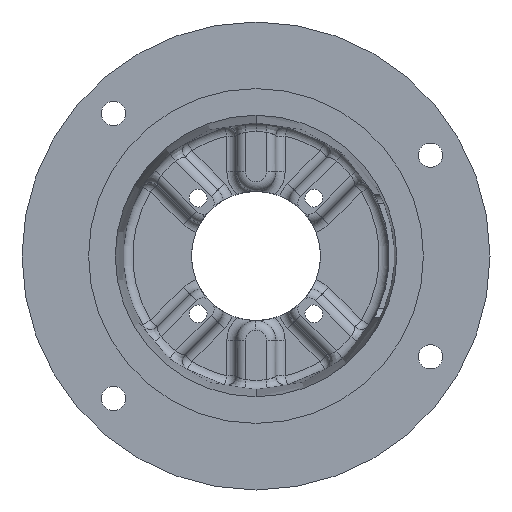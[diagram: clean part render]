
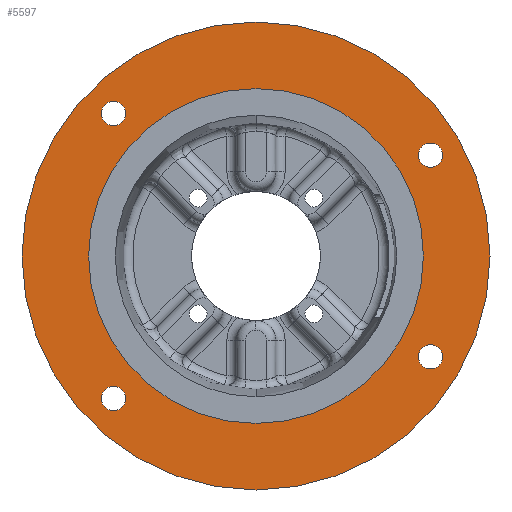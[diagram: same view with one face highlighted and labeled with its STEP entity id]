
A CAD part, front view. The second image highlights one B-rep face of the part: STEP entity #5597.
In plain terms, the highlighted planar face has unit normal (0, -1, 0).
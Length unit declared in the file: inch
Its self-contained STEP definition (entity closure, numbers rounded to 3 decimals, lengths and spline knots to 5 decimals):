
#284 = AXIS2_PLACEMENT_3D ( 'NONE', #5250, #2018, #2286 ) ;
#334 = CARTESIAN_POINT ( 'NONE',  ( -2.74004, 0., 2.50566 ) ) ;
#349 = DIRECTION ( 'NONE',  ( 0., 0., -1. ) ) ;
#396 = AXIS2_PLACEMENT_3D ( 'NONE', #5514, #2266, #6048 ) ;
#427 = VERTEX_POINT ( 'NONE', #2354 ) ;
#493 = CARTESIAN_POINT ( 'NONE',  ( -2.74004, 0., -2.50566 ) ) ;
#563 = CIRCLE ( 'NONE', #2217, 0.23438 ) ;
#591 = DIRECTION ( 'NONE',  ( 0., -1., 0. ) ) ;
#621 = AXIS2_PLACEMENT_3D ( 'NONE', #996, #4797, #1554 ) ;
#669 = CIRCLE ( 'NONE', #5277, 0.23438 ) ;
#676 = ORIENTED_EDGE ( 'NONE', *, *, #5700, .F. ) ;
#710 = EDGE_CURVE ( 'NONE', #3886, #2460, #1230, .T. ) ;
#824 = DIRECTION ( 'NONE',  ( 0., -1., 0. ) ) ;
#837 = EDGE_CURVE ( 'NONE', #6818, #3067, #563, .T. ) ;
#926 = EDGE_CURVE ( 'NONE', #3489, #4747, #2946, .T. ) ;
#968 = CARTESIAN_POINT ( 'NONE',  ( 3.35585, 0., -2.17187 ) ) ;
#970 = CIRCLE ( 'NONE', #4497, 0.23438 ) ;
#996 = CARTESIAN_POINT ( 'NONE',  ( 3.35585, 0., -1.9375 ) ) ;
#1009 = DIRECTION ( 'NONE',  ( 0., -1., 0. ) ) ;
#1014 = DIRECTION ( 'NONE',  ( 0., -1., 0. ) ) ;
#1016 = CARTESIAN_POINT ( 'NONE',  ( 0., 0., -4.5 ) ) ;
#1039 = AXIS2_PLACEMENT_3D ( 'NONE', #3841, #591, #4368 ) ;
#1049 = EDGE_LOOP ( 'NONE', ( #4099, #6841 ) ) ;
#1102 = CARTESIAN_POINT ( 'NONE',  ( 3.35585, 0., 1.70313 ) ) ;
#1230 = CIRCLE ( 'NONE', #396, 4.5 ) ;
#1275 = AXIS2_PLACEMENT_3D ( 'NONE', #4080, #824, #4618 ) ;
#1312 = CARTESIAN_POINT ( 'NONE',  ( 3.35585, 0., -1.9375 ) ) ;
#1343 = CARTESIAN_POINT ( 'NONE',  ( 0., 0., -3.2195 ) ) ;
#1377 = FACE_BOUND ( 'NONE', #6759, .T. ) ;
#1417 = AXIS2_PLACEMENT_3D ( 'NONE', #3276, #1658, #5443 ) ;
#1422 = CIRCLE ( 'NONE', #5459, 0.23438 ) ;
#1441 = EDGE_CURVE ( 'NONE', #1580, #6516, #5215, .T. ) ;
#1516 = ORIENTED_EDGE ( 'NONE', *, *, #5000, .F. ) ;
#1554 = DIRECTION ( 'NONE',  ( 0., 0., -1. ) ) ;
#1580 = VERTEX_POINT ( 'NONE', #1343 ) ;
#1649 = DIRECTION ( 'NONE',  ( 0., -1., 0. ) ) ;
#1658 = DIRECTION ( 'NONE',  ( 0., 1., 0. ) ) ;
#1692 = EDGE_LOOP ( 'NONE', ( #3805, #2802 ) ) ;
#1830 = EDGE_LOOP ( 'NONE', ( #3214, #1516 ) ) ;
#1874 = DIRECTION ( 'NONE',  ( 0., 0., -1. ) ) ;
#1892 = DIRECTION ( 'NONE',  ( 0., -1., 0. ) ) ;
#1896 = EDGE_CURVE ( 'NONE', #3067, #6818, #970, .T. ) ;
#1989 = CIRCLE ( 'NONE', #5035, 0.23437 ) ;
#1998 = CIRCLE ( 'NONE', #1275, 3.2195 ) ;
#2018 = DIRECTION ( 'NONE',  ( 0., -1., 0. ) ) ;
#2217 = AXIS2_PLACEMENT_3D ( 'NONE', #5118, #1892, #5680 ) ;
#2255 = EDGE_CURVE ( 'NONE', #6342, #2288, #6981, .T. ) ;
#2266 = DIRECTION ( 'NONE',  ( 0., -1., 0. ) ) ;
#2286 = DIRECTION ( 'NONE',  ( 0., 0., -1. ) ) ;
#2288 = VERTEX_POINT ( 'NONE', #493 ) ;
#2345 = CARTESIAN_POINT ( 'NONE',  ( -2.74004, 0., -2.74004 ) ) ;
#2354 = CARTESIAN_POINT ( 'NONE',  ( 3.35585, 0., 2.17188 ) ) ;
#2401 = CARTESIAN_POINT ( 'NONE',  ( -2.74004, 0., 2.97441 ) ) ;
#2460 = VERTEX_POINT ( 'NONE', #2799 ) ;
#2626 = EDGE_LOOP ( 'NONE', ( #3356, #6096 ) ) ;
#2775 = CARTESIAN_POINT ( 'NONE',  ( 3.35585, 0., -1.70312 ) ) ;
#2799 = CARTESIAN_POINT ( 'NONE',  ( 0., 0., 4.5 ) ) ;
#2802 = ORIENTED_EDGE ( 'NONE', *, *, #3126, .F. ) ;
#2829 = FACE_BOUND ( 'NONE', #1830, .T. ) ;
#2899 = DIRECTION ( 'NONE',  ( 0., 0., -1. ) ) ;
#2946 = CIRCLE ( 'NONE', #621, 0.23438 ) ;
#3067 = VERTEX_POINT ( 'NONE', #2401 ) ;
#3126 = EDGE_CURVE ( 'NONE', #6516, #1580, #1998, .T. ) ;
#3214 = ORIENTED_EDGE ( 'NONE', *, *, #926, .F. ) ;
#3276 = CARTESIAN_POINT ( 'NONE',  ( -4.5, 0., 0. ) ) ;
#3356 = ORIENTED_EDGE ( 'NONE', *, *, #6998, .F. ) ;
#3399 = AXIS2_PLACEMENT_3D ( 'NONE', #1312, #5098, #1874 ) ;
#3489 = VERTEX_POINT ( 'NONE', #968 ) ;
#3545 = CARTESIAN_POINT ( 'NONE',  ( -2.74004, 0., -2.97441 ) ) ;
#3597 = DIRECTION ( 'NONE',  ( 0., -1., 0. ) ) ;
#3805 = ORIENTED_EDGE ( 'NONE', *, *, #1441, .F. ) ;
#3841 = CARTESIAN_POINT ( 'NONE',  ( 0., 0., 0. ) ) ;
#3886 = VERTEX_POINT ( 'NONE', #1016 ) ;
#3978 = VERTEX_POINT ( 'NONE', #1102 ) ;
#4080 = CARTESIAN_POINT ( 'NONE',  ( 0., 0., 0. ) ) ;
#4092 = CIRCLE ( 'NONE', #1039, 4.5 ) ;
#4099 = ORIENTED_EDGE ( 'NONE', *, *, #710, .T. ) ;
#4263 = CARTESIAN_POINT ( 'NONE',  ( -2.74004, 0., -2.74004 ) ) ;
#4264 = FACE_BOUND ( 'NONE', #4899, .T. ) ;
#4265 = CARTESIAN_POINT ( 'NONE',  ( 3.35585, 0., 1.9375 ) ) ;
#4368 = DIRECTION ( 'NONE',  ( 0., 0., -1. ) ) ;
#4422 = FACE_OUTER_BOUND ( 'NONE', #1049, .T. ) ;
#4497 = AXIS2_PLACEMENT_3D ( 'NONE', #4889, #1649, #5438 ) ;
#4618 = DIRECTION ( 'NONE',  ( 0., 0., -1. ) ) ;
#4747 = VERTEX_POINT ( 'NONE', #2775 ) ;
#4797 = DIRECTION ( 'NONE',  ( 0., -1., 0. ) ) ;
#4804 = DIRECTION ( 'NONE',  ( 0., 0., -1. ) ) ;
#4808 = DIRECTION ( 'NONE',  ( 0., 0., -1. ) ) ;
#4852 = ORIENTED_EDGE ( 'NONE', *, *, #1896, .F. ) ;
#4889 = CARTESIAN_POINT ( 'NONE',  ( -2.74004, 0., 2.74004 ) ) ;
#4899 = EDGE_LOOP ( 'NONE', ( #6928, #4852 ) ) ;
#5000 = EDGE_CURVE ( 'NONE', #4747, #3489, #6466, .T. ) ;
#5035 = AXIS2_PLACEMENT_3D ( 'NONE', #2345, #6126, #2899 ) ;
#5098 = DIRECTION ( 'NONE',  ( 0., -1., 0. ) ) ;
#5118 = CARTESIAN_POINT ( 'NONE',  ( -2.74004, 0., 2.74004 ) ) ;
#5170 = ORIENTED_EDGE ( 'NONE', *, *, #2255, .F. ) ;
#5215 = CIRCLE ( 'NONE', #284, 3.2195 ) ;
#5250 = CARTESIAN_POINT ( 'NONE',  ( 0., 0., 0. ) ) ;
#5277 = AXIS2_PLACEMENT_3D ( 'NONE', #6829, #3597, #349 ) ;
#5314 = CARTESIAN_POINT ( 'NONE',  ( 0., 0., 3.2195 ) ) ;
#5438 = DIRECTION ( 'NONE',  ( 0., 0., -1. ) ) ;
#5443 = DIRECTION ( 'NONE',  ( 0., 0., 1. ) ) ;
#5459 = AXIS2_PLACEMENT_3D ( 'NONE', #4265, #1014, #4808 ) ;
#5514 = CARTESIAN_POINT ( 'NONE',  ( 0., 0., 0. ) ) ;
#5597 = ADVANCED_FACE ( 'NONE', ( #5707, #2829, #1377, #4264, #6961, #4422 ), #5968, .F. ) ;
#5618 = EDGE_CURVE ( 'NONE', #2460, #3886, #4092, .T. ) ;
#5680 = DIRECTION ( 'NONE',  ( 0., 0., -1. ) ) ;
#5700 = EDGE_CURVE ( 'NONE', #2288, #6342, #1989, .T. ) ;
#5707 = FACE_BOUND ( 'NONE', #2626, .T. ) ;
#5903 = EDGE_CURVE ( 'NONE', #427, #3978, #669, .T. ) ;
#5968 = PLANE ( 'NONE',  #1417 ) ;
#6048 = DIRECTION ( 'NONE',  ( 0., 0., -1. ) ) ;
#6096 = ORIENTED_EDGE ( 'NONE', *, *, #5903, .F. ) ;
#6126 = DIRECTION ( 'NONE',  ( 0., -1., 0. ) ) ;
#6187 = AXIS2_PLACEMENT_3D ( 'NONE', #4263, #1009, #4804 ) ;
#6342 = VERTEX_POINT ( 'NONE', #3545 ) ;
#6466 = CIRCLE ( 'NONE', #3399, 0.23438 ) ;
#6516 = VERTEX_POINT ( 'NONE', #5314 ) ;
#6759 = EDGE_LOOP ( 'NONE', ( #5170, #676 ) ) ;
#6818 = VERTEX_POINT ( 'NONE', #334 ) ;
#6829 = CARTESIAN_POINT ( 'NONE',  ( 3.35585, 0., 1.9375 ) ) ;
#6841 = ORIENTED_EDGE ( 'NONE', *, *, #5618, .T. ) ;
#6928 = ORIENTED_EDGE ( 'NONE', *, *, #837, .F. ) ;
#6961 = FACE_BOUND ( 'NONE', #1692, .T. ) ;
#6981 = CIRCLE ( 'NONE', #6187, 0.23437 ) ;
#6998 = EDGE_CURVE ( 'NONE', #3978, #427, #1422, .T. ) ;
